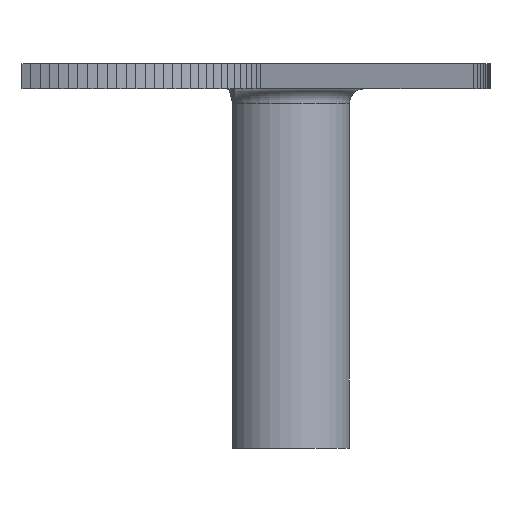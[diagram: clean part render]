
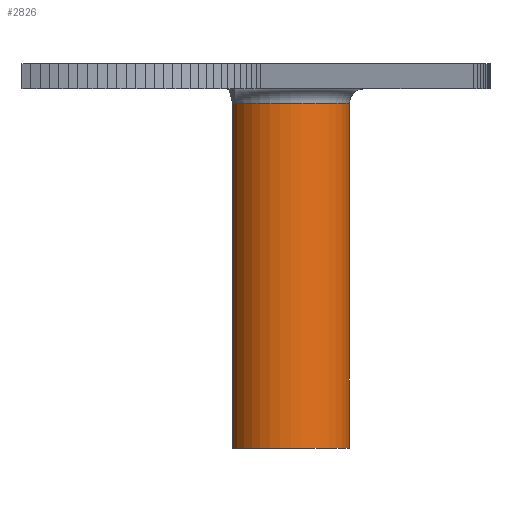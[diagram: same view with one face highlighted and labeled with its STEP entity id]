
A CAD part, front view. The second image highlights one B-rep face of the part: STEP entity #2826.
In plain terms, the highlighted cylindrical face has radius 8.5 mm (diameter 17 mm), a partial arc.
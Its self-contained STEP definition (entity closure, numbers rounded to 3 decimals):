
#395 = CARTESIAN_POINT ( 'NONE',  ( -15.633, 6.77, -2. ) ) ;
#416 = AXIS2_PLACEMENT_3D ( 'NONE', #3996, #1792, #4369 ) ;
#427 = DIRECTION ( 'NONE',  ( 0., 0., -1. ) ) ;
#550 = CARTESIAN_POINT ( 'NONE',  ( -15.633, 6.77, 2.9 ) ) ;
#571 = CARTESIAN_POINT ( 'NONE',  ( -7.843, 10.171, 2.9 ) ) ;
#665 = VERTEX_POINT ( 'NONE', #395 ) ;
#723 = CIRCLE ( 'NONE', #416, 8.5 ) ;
#756 = FACE_OUTER_BOUND ( 'NONE', #3994, .T. ) ;
#933 = DIRECTION ( 'NONE',  ( -1., 0., 0. ) ) ;
#944 = VERTEX_POINT ( 'NONE', #2985 ) ;
#1062 = ORIENTED_EDGE ( 'NONE', *, *, #4163, .F. ) ;
#1101 = DIRECTION ( 'NONE',  ( 0., 0., -1. ) ) ;
#1169 = CARTESIAN_POINT ( 'NONE',  ( 0.657, 10.171, 2.9 ) ) ;
#1259 = EDGE_CURVE ( 'NONE', #665, #2977, #3443, .T. ) ;
#1308 = CARTESIAN_POINT ( 'NONE',  ( 0.657, 10.171, -50. ) ) ;
#1792 = DIRECTION ( 'NONE',  ( 0., 0., -1. ) ) ;
#1931 = LINE ( 'NONE', #1169, #2901 ) ;
#2108 = AXIS2_PLACEMENT_3D ( 'NONE', #571, #4250, #933 ) ;
#2436 = ORIENTED_EDGE ( 'NONE', *, *, #3258, .T. ) ;
#2469 = VECTOR ( 'NONE', #3491, 1000. ) ;
#2600 = EDGE_CURVE ( 'NONE', #944, #3645, #1931, .T. ) ;
#2826 = ADVANCED_FACE ( 'NONE', ( #756 ), #3584, .T. ) ;
#2901 = VECTOR ( 'NONE', #427, 1000. ) ;
#2977 = VERTEX_POINT ( 'NONE', #3253 ) ;
#2985 = CARTESIAN_POINT ( 'NONE',  ( 0.657, 10.171, -2. ) ) ;
#3253 = CARTESIAN_POINT ( 'NONE',  ( -15.633, 6.77, -50. ) ) ;
#3258 = EDGE_CURVE ( 'NONE', #944, #665, #4458, .T. ) ;
#3302 = CARTESIAN_POINT ( 'NONE',  ( -7.843, 10.171, -2. ) ) ;
#3365 = ORIENTED_EDGE ( 'NONE', *, *, #1259, .T. ) ;
#3443 = LINE ( 'NONE', #550, #2469 ) ;
#3491 = DIRECTION ( 'NONE',  ( 0., 0., -1. ) ) ;
#3584 = CYLINDRICAL_SURFACE ( 'NONE', #2108, 8.5 ) ;
#3645 = VERTEX_POINT ( 'NONE', #1308 ) ;
#3671 = DIRECTION ( 'NONE',  ( 1., 0., 0. ) ) ;
#3994 = EDGE_LOOP ( 'NONE', ( #4039, #2436, #3365, #1062 ) ) ;
#3996 = CARTESIAN_POINT ( 'NONE',  ( -7.843, 10.171, -50. ) ) ;
#4039 = ORIENTED_EDGE ( 'NONE', *, *, #2600, .F. ) ;
#4163 = EDGE_CURVE ( 'NONE', #3645, #2977, #723, .T. ) ;
#4250 = DIRECTION ( 'NONE',  ( 0., 0., -1. ) ) ;
#4369 = DIRECTION ( 'NONE',  ( -1., 0., 0. ) ) ;
#4458 = CIRCLE ( 'NONE', #4498, 8.5 ) ;
#4498 = AXIS2_PLACEMENT_3D ( 'NONE', #3302, #1101, #3671 ) ;
